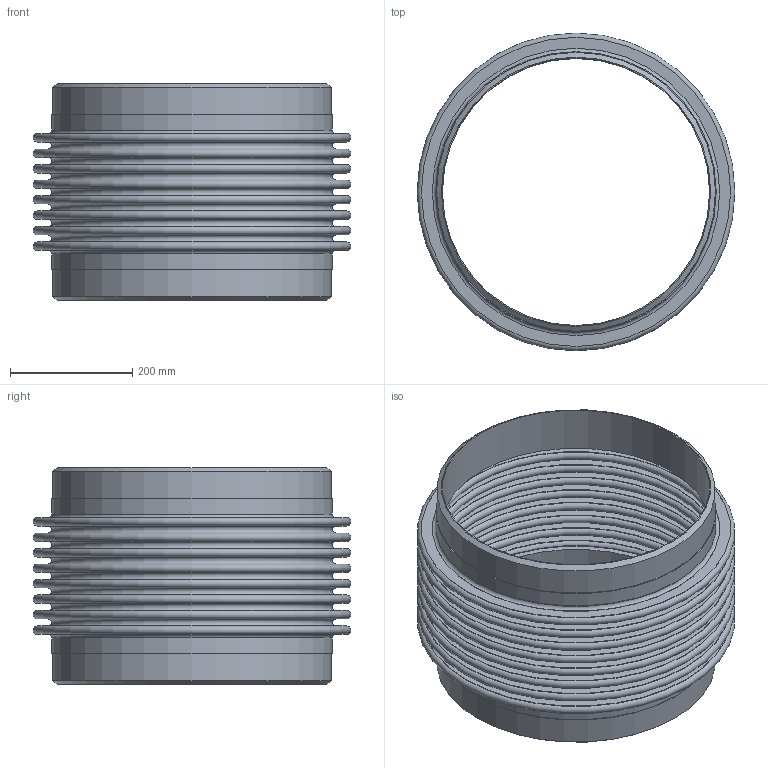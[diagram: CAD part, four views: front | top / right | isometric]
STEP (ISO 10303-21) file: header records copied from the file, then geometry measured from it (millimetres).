
FILE_DESCRIPTION(/* description */ (''),/* implementation_level */ '2;1');
FILE_NAME(/* name */ 'PIPE-18 - 85.stp',/* time_stamp */ '2026-07-23T09:32:09-05:00',/* author */ ('jorgef'),/* organization */ (''),/* preprocessor_version */ 'ST-DEVELOPER v20.1',/* originating_system */ 'Autodesk Inventor 2026',/* authorisation */ '');
FILE_SCHEMA (('AUTOMOTIVE_DESIGN { 1 0 10303 214 3 1 1 }'));
Length unit declared in the file: inch
Products named in the file (1): PIPE- 18 - 85 PSIG ASSEMBLY PART
Bounding box: 520.7 x 520.7 x 355.6 mm (x, y, z)
Volume: 3194186.3 mm3; surface area: 2331556.5 mm2
Topology: 1 solids, 1 shells, 80 faces, 126 edges, 84 vertices
Faces by surface type: plane 38, torus 34, cylinder 6, cone 2
Full cylindrical faces by diameter (mm): 438.15 x2, 457.2 x2, 459.638 x2
Entity records: 2035 total; most frequent: DIRECTION 406, CARTESIAN_POINT 291, ORIENTED_EDGE 252, AXIS2_PLACEMENT_3D 199, EDGE_CURVE 126, EDGE_LOOP 118, CIRCLE 118, VERTEX_POINT 84
